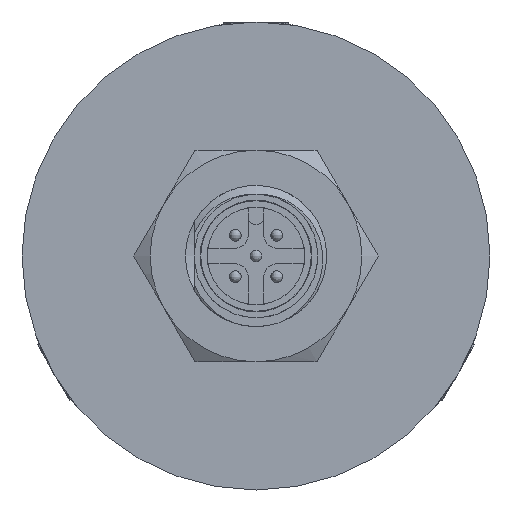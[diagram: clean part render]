
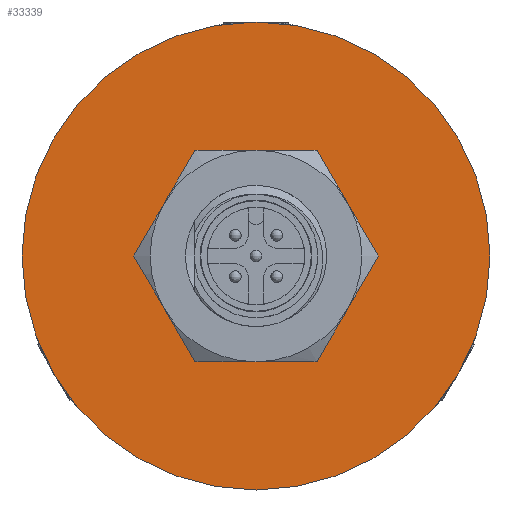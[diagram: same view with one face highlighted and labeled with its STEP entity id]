
A CAD part, left-side view. The second image highlights one B-rep face of the part: STEP entity #33339.
In plain terms, the highlighted planar face has unit normal (-1, 0, 0).
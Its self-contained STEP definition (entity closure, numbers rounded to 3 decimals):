
#392 = EDGE_LOOP ( 'NONE', ( #24780, #21548 ) ) ;
#575 = AXIS2_PLACEMENT_3D ( 'NONE', #16151, #12230, #8230 ) ;
#846 = FACE_OUTER_BOUND ( 'NONE', #392, .T. ) ;
#2327 = EDGE_CURVE ( 'NONE', #28867, #26707, #25902, .T. ) ;
#2863 = AXIS2_PLACEMENT_3D ( 'NONE', #23539, #19540, #15572 ) ;
#2974 = DIRECTION ( 'NONE',  ( -1., 0., 0. ) ) ;
#3382 = DIRECTION ( 'NONE',  ( -1., 0., 0. ) ) ;
#5717 = CARTESIAN_POINT ( 'NONE',  ( -2., 19.9, 75.892 ) ) ;
#6970 = CARTESIAN_POINT ( 'NONE',  ( -2., 0., 75.892 ) ) ;
#7381 = CARTESIAN_POINT ( 'NONE',  ( -2., 0., 75.892 ) ) ;
#8230 = DIRECTION ( 'NONE',  ( 0., -1., 0. ) ) ;
#10991 = AXIS2_PLACEMENT_3D ( 'NONE', #7381, #3382, #38241 ) ;
#12230 = DIRECTION ( 'NONE',  ( -1., 0., 0. ) ) ;
#13909 = EDGE_CURVE ( 'NONE', #26707, #28867, #21649, .T. ) ;
#15572 = DIRECTION ( 'NONE',  ( 0., 1., 0. ) ) ;
#15896 = CARTESIAN_POINT ( 'NONE',  ( -2., -19.9, 75.892 ) ) ;
#16151 = CARTESIAN_POINT ( 'NONE',  ( -2., 0., 75.892 ) ) ;
#17182 = DIRECTION ( 'NONE',  ( 0., -1., 0. ) ) ;
#18058 = VERTEX_POINT ( 'NONE', #27703 ) ;
#19540 = DIRECTION ( 'NONE',  ( 1., 0., 0. ) ) ;
#20688 = AXIS2_PLACEMENT_3D ( 'NONE', #6970, #2974, #37807 ) ;
#20879 = VERTEX_POINT ( 'NONE', #23318 ) ;
#21208 = DIRECTION ( 'NONE',  ( -1., 0., 0. ) ) ;
#21448 = AXIS2_PLACEMENT_3D ( 'NONE', #29107, #21208, #17182 ) ;
#21548 = ORIENTED_EDGE ( 'NONE', *, *, #13909, .T. ) ;
#21649 = CIRCLE ( 'NONE', #21448, 19.9 ) ;
#22733 = EDGE_CURVE ( 'NONE', #18058, #20879, #28105, .T. ) ;
#23318 = CARTESIAN_POINT ( 'NONE',  ( -2., 6., 75.892 ) ) ;
#23539 = CARTESIAN_POINT ( 'NONE',  ( -2., 6., 75.892 ) ) ;
#24780 = ORIENTED_EDGE ( 'NONE', *, *, #2327, .T. ) ;
#25902 = CIRCLE ( 'NONE', #20688, 19.9 ) ;
#26707 = VERTEX_POINT ( 'NONE', #5717 ) ;
#27311 = ORIENTED_EDGE ( 'NONE', *, *, #22733, .F. ) ;
#27497 = PLANE ( 'NONE',  #2863 ) ;
#27703 = CARTESIAN_POINT ( 'NONE',  ( -2., -6., 75.892 ) ) ;
#28105 = CIRCLE ( 'NONE', #575, 6. ) ;
#28867 = VERTEX_POINT ( 'NONE', #15896 ) ;
#29014 = CIRCLE ( 'NONE', #10991, 6. ) ;
#29107 = CARTESIAN_POINT ( 'NONE',  ( -2., 0., 75.892 ) ) ;
#31484 = ORIENTED_EDGE ( 'NONE', *, *, #35938, .F. ) ;
#33339 = ADVANCED_FACE ( 'NONE', ( #36671, #846 ), #27497, .F. ) ;
#35938 = EDGE_CURVE ( 'NONE', #20879, #18058, #29014, .T. ) ;
#35960 = EDGE_LOOP ( 'NONE', ( #27311, #31484 ) ) ;
#36671 = FACE_BOUND ( 'NONE', #35960, .T. ) ;
#37807 = DIRECTION ( 'NONE',  ( 0., -1., 0. ) ) ;
#38241 = DIRECTION ( 'NONE',  ( 0., -1., 0. ) ) ;
